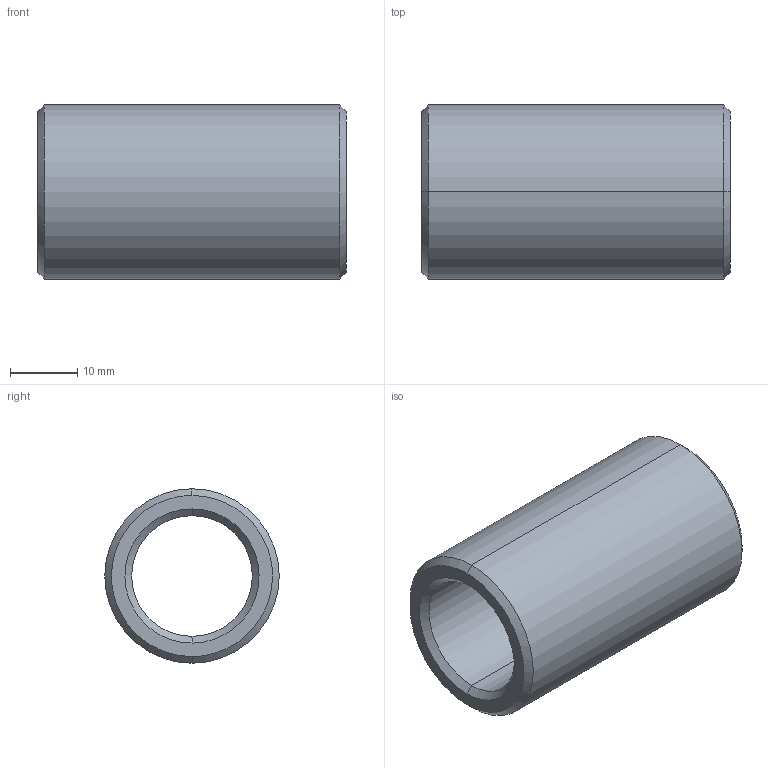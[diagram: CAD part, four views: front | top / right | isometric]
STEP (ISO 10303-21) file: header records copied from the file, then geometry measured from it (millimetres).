
FILE_DESCRIPTION(('CATIA V5 STEP Exchange'),'2;1');
FILE_NAME('C:\Users\Utente\Desktop\IO LAVORO\3D X SITO CF\X SITO\PLASTICA\352\352-18X46.stp','2021-04-12T15:40:28+00:00',('none'),('none'),'CATIA Version 5 Release 20 GA (IN-10)','CATIA V5 STEP AP203','none');
FILE_SCHEMA(('CONFIG_CONTROL_DESIGN'));
Length unit declared in the file: millimetre
Products named in the file (1): 352-18X46
Bounding box: 46 x 26 x 26 mm (x, y, z)
Volume: 12595.8 mm3; surface area: 6757.6 mm2
Topology: 1 solids, 1 shells, 14 faces, 44 edges, 32 vertices
Faces by surface type: cone 6, cylinder 4, plane 2, torus 2
Entity records: 634 total; most frequent: CARTESIAN_POINT 203, ORIENTED_EDGE 88, DIRECTION 64, EDGE_CURVE 44, AXIS2_PLACEMENT_3D 41, VERTEX_POINT 32, CIRCLE 26, EDGE_LOOP 16
